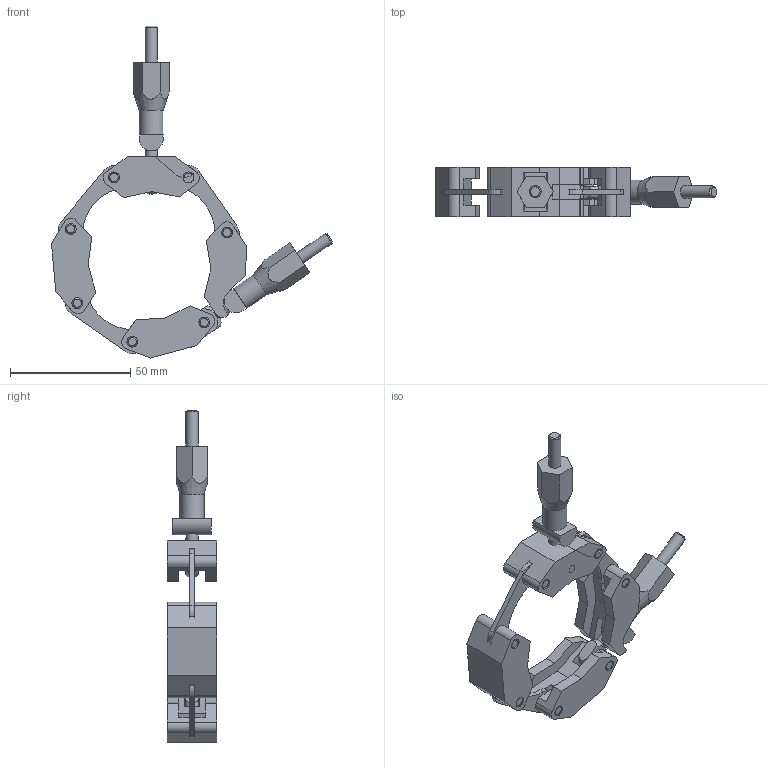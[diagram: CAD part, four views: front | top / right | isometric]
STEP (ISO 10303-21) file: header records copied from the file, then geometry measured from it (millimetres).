
FILE_DESCRIPTION( ( 'Unknown' ), '1' );
FILE_NAME( 'X:/Daten ( aktueller Bestand )/Projekte und Zeichnungen/Solid Edge/5 Spannringe/Alu/Spannrollenkette/1333.stp', 'Unknown', ( 'Unknown' ), ( 'Unknown' ), 'XStep 1.0', 'Unknown', ' ' );
FILE_SCHEMA( ( 'automotive_design' ) );
Length unit declared in the file: millimetre
Products named in the file (7): Assem1; 1331-1; 1331-2; 1331-11; 1331-12; 1331-4; 1331-33
Bounding box: 116.92 x 20.5 x 138.18 mm (x, y, z)
Volume: 67578.9 mm3; surface area: 36991.9 mm2
Topology: 21 solids, 21 shells, 359 faces, 931 edges, 620 vertices
Faces by surface type: plane 241, cylinder 94, cone 20, torus 4
Full cylindrical faces by diameter (mm): 4.4 x8, 4.5 x32, 5 x6, 10 x2
Entity records: 4780 total; most frequent: CARTESIAN_POINT 1092, DIRECTION 722, ORIENTED_EDGE 688, EDGE_CURVE 344, LINE 254, VECTOR 254, VERTEX_POINT 240, AXIS2_PLACEMENT_3D 234
